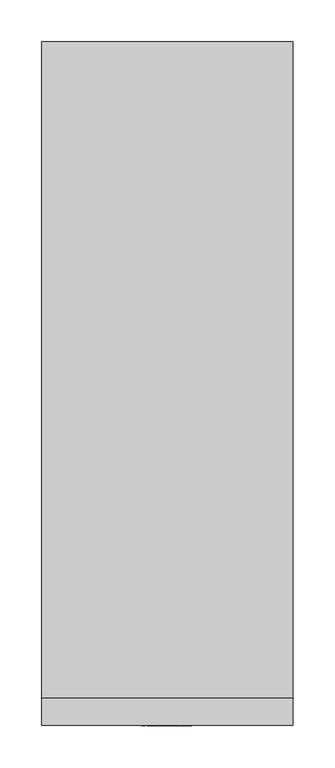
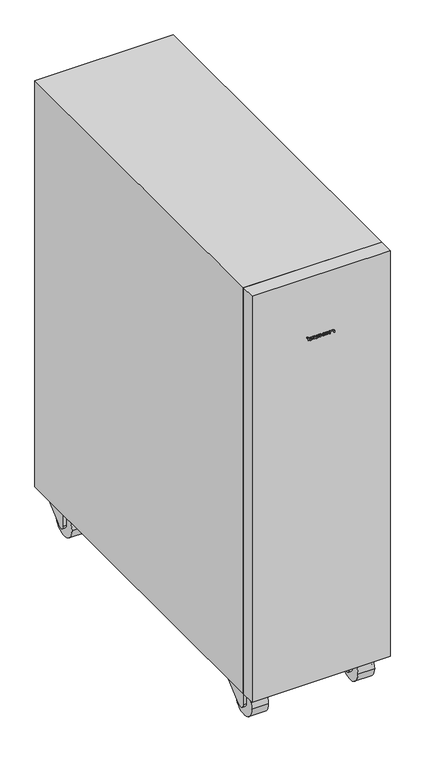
"""IFC4 building model written with IfcOpenShell, lengths in millimetres: proxy geometry, IPPON_ИБП_Innova RT 33 Tower_20000_40000_60000_80000ВА : Innova RT 33 Tower 40000 ВА."""

from ifc_helpers import new_model, si_unit, point, frame, frame_2d, origin, place, context, project, spatial, polyline, circle_curve, trimmed, segment, composite_curve, outline, extrude, source, transform, mapped, element, save
from ifc_brep_helpers import plane_surface, cylinder_surface, advanced_brep


def electrical_equipment_90e6ebf0(model_context):
    return source(origin(), model_context, "Body", "SolidModel", [
        extrude(outline(polyline([(-29.1718133, -1.0), (-31.1718133, -1.0), (-31.1718133, 0.0), (-29.1718133, 0.0), (-29.1718133, -1.0)])), frame((0.0, 0.0, 862.4695835), z_axis=(0.0, 0.0, 1.0), x_axis=(1.0, 0.0, 0.0)), (0.0, 0.0, 1.0), 2.3),
        extrude(outline(polyline([(18.6035474, -1.0), (16.6035474, -1.0), (16.6035474, 0.0), (18.6035474, 0.0), (18.6035474, -1.0)])), frame((0.0, 0.0, 856.4695835), z_axis=(0.0, 0.0, 1.0), x_axis=(1.0, 0.0, 0.0)), (0.0, 0.0, 1.0), 2.2268231),
        extrude(outline(polyline([(-26.438565, -1.0), (-28.4833324, -1.0), (-28.4833324, 0.0), (-26.438565, 0.0), (-26.438565, -1.0)])), frame((0.0, 0.0, 856.4695835), z_axis=(0.0, 0.0, 1.0), x_axis=(1.0, 0.0, 0.0)), (0.0, 0.0, 1.0), 6.0),
        extrude(outline(composite_curve([segment(polyline([(860.2071435, -24.2241109), (860.2071435, -14.9923536)]), True, "CONTINUOUS"), segment(trimmed(circle_curve(frame_2d((859.3506642, -14.9923536)), 0.8564793), [point((860.2071435, -14.9923536))], [point((858.4941849, -14.9923536))], True, "CARTESIAN"), True, "CONTINUOUS"), segment(polyline([(858.4941849, -14.9923536), (858.4941849, -24.2241109), (855.0036803, -24.2241109), (855.0036803, -22.2241109), (856.4695835, -22.2241109), (856.4695835, -15.1486036)]), True, "CONTINUOUS"), segment(trimmed(circle_curve(frame_2d((859.4695835, -15.1486036)), 3.0), [point((856.4695835, -15.1486036))], [point((862.4695835, -15.1486036))], False, "CARTESIAN"), True, "CONTINUOUS"), segment(polyline([(862.4695835, -15.1486036), (862.4695835, -24.2241109), (860.2071435, -24.2241109)]), True, "CONTINUOUS")], self_intersect=False)), frame((0.0, -1.0, 0.0), z_axis=(0.0, 1.0, 0.0), x_axis=(0.0, 0.0, 1.0)), (0.0, 0.0, 1.0), 1.0),
        extrude(outline(composite_curve([segment(polyline([(860.2071435, -11.0171091), (860.2071435, -1.7853518)]), True, "CONTINUOUS"), segment(trimmed(circle_curve(frame_2d((859.3506642, -1.7853518)), 0.8564793), [point((860.2071435, -1.7853518))], [point((858.4941849, -1.7853518))], True, "CARTESIAN"), True, "CONTINUOUS"), segment(polyline([(858.4941849, -1.7853518), (858.4941849, -11.0171091), (855.0036803, -11.0171091), (855.0036803, -9.0171091), (856.4695835, -9.0171091), (856.4695835, -1.9416018)]), True, "CONTINUOUS"), segment(trimmed(circle_curve(frame_2d((859.4695835, -1.9416018)), 3.0), [point((856.4695835, -1.9416018))], [point((862.4695835, -1.9416018))], False, "CARTESIAN"), True, "CONTINUOUS"), segment(polyline([(862.4695835, -1.9416018), (862.4695835, -11.0171091), (860.2071435, -11.0171091)]), True, "CONTINUOUS")], self_intersect=False)), frame((0.0, -1.0, 0.0), z_axis=(0.0, 1.0, 0.0), x_axis=(0.0, 0.0, 1.0)), (0.0, 0.0, 1.0), 1.0),
        extrude(outline(composite_curve([segment(trimmed(circle_curve(frame_2d((859.4695835, 12.558657)), 3.0), [point((856.4695835, 12.558657))], [point((862.4695835, 12.558657))], False, "CARTESIAN"), True, "CONTINUOUS"), segment(polyline([(862.4695835, 12.558657), (862.4695835, 4.958657)]), True, "CONTINUOUS"), segment(trimmed(circle_curve(frame_2d((859.4695835, 4.958657)), 3.0), [point((862.4695835, 4.958657))], [point((856.4695835, 4.958657))], False, "CARTESIAN"), True, "CONTINUOUS"), segment(polyline([(856.4695835, 4.958657), (856.4695835, 12.558657)]), True, "CONTINUOUS")], self_intersect=False), holes=[composite_curve([segment(polyline([(858.4941849, 12.714907), (858.4941849, 4.802407)]), True, "CONTINUOUS"), segment(trimmed(circle_curve(frame_2d((859.3506642, 4.802407)), 0.8564793), [point((858.4941849, 4.802407))], [point((860.2071435, 4.802407))], True, "CARTESIAN"), True, "CONTINUOUS"), segment(polyline([(860.2071435, 4.802407), (860.2071435, 12.714907)]), True, "CONTINUOUS"), segment(trimmed(circle_curve(frame_2d((859.3506642, 12.714907)), 0.8564793), [point((860.2071435, 12.714907))], [point((858.4941849, 12.714907))], True, "CARTESIAN"), True, "CONTINUOUS")], self_intersect=False)]), frame((0.0, -1.0, 0.0), z_axis=(0.0, 1.0, 0.0), x_axis=(0.0, 0.0, 1.0)), (0.0, 0.0, 1.0), 1.0),
        extrude(outline(composite_curve([segment(polyline([(860.2071435, 16.6035474), (860.2071435, 25.8353046)]), True, "CONTINUOUS"), segment(trimmed(circle_curve(frame_2d((859.3506642, 25.8353046)), 0.8564793), [point((860.2071435, 25.8353046))], [point((859.3506642, 26.6917839))], True, "CARTESIAN"), True, "CONTINUOUS"), segment(polyline([(859.3506642, 26.6917839), (856.4695835, 26.6917839), (856.4695835, 28.6317921), (860.0, 28.6317921)]), True, "CONTINUOUS"), segment(trimmed(circle_curve(frame_2d((859.4695835, 25.6790546)), 3.0), [point((860.0, 28.6317921))], [point((862.4695835, 25.6790546))], False, "CARTESIAN"), True, "CONTINUOUS"), segment(polyline([(862.4695835, 25.6790546), (862.4695835, 16.6035474), (860.2071435, 16.6035474)]), True, "CONTINUOUS")], self_intersect=False)), frame((0.0, -1.0, 0.0), z_axis=(0.0, 1.0, 0.0), x_axis=(0.0, 0.0, 1.0)), (0.0, 0.0, 1.0), 1.0),
        advanced_brep(
        [(-133.0, 765.0, 30.0), (-133.0, 705.0, 30.0), (-133.0, 725.0, 58.2842712), (-133.0, 725.0, 30.0), (-133.0, 743.2371094, 24.3299005), (-133.0, 762.8711425, 41.0995231), (-97.0, 705.0, 30.0), (-97.0, 765.0, 30.0), (-97.0, 762.8711425, 41.0995231), (-97.0, 743.2371094, 24.3299005), (-97.0, 725.0, 30.0), (-97.0, 725.0, 58.2842712), (-140.0, 725.0, 30.0), (-140.0, 725.0, 70.0), (-140.0, 785.0, 70.0), (-140.0, 785.0, 60.0), (-140.0, 743.2371094, 24.3299005), (-90.0, 725.0, 30.0), (-90.0, 743.2371094, 24.3299005), (-90.0, 785.0, 60.0), (-90.0, 785.0, 70.0), (-90.0, 725.0, 70.0)],
        [
            (0, 1, circle_curve(frame((-133.0, 735.0, 30.0), z_axis=(-1.0, 0.0, 0.0), x_axis=(0.0, -1.0, 0.0)), 30.0)),
            (1, 2, circle_curve(frame((-133.0, 735.0, 30.0), z_axis=(-1.0, 0.0, 0.0), x_axis=(0.0, -1.0, 0.0)), 30.0)),
            (2, 3),
            (3, 4, circle_curve(frame((-133.0, 735.0, 30.0), z_axis=(1.0, 0.0, 0.0), x_axis=(0.0, -1.0, 0.0)), 10.0)),
            (4, 5),
            (5, 0, circle_curve(frame((-133.0, 735.0, 30.0), z_axis=(-1.0, 0.0, 0.0), x_axis=(0.0, -1.0, 0.0)), 30.0)),
            (6, 7, circle_curve(frame((-97.0, 735.0, 30.0), z_axis=(1.0, 0.0, 0.0), x_axis=(0.0, -1.0, 0.0)), 30.0)),
            (7, 8, circle_curve(frame((-97.0, 735.0, 30.0), z_axis=(1.0, 0.0, 0.0), x_axis=(0.0, -1.0, 0.0)), 30.0)),
            (8, 9),
            (9, 10, circle_curve(frame((-97.0, 735.0, 30.0), z_axis=(-1.0, 0.0, 0.0), x_axis=(0.0, -1.0, 0.0)), 10.0)),
            (10, 11),
            (11, 6, circle_curve(frame((-97.0, 735.0, 30.0), z_axis=(1.0, 0.0, 0.0), x_axis=(0.0, -1.0, 0.0)), 30.0)),
            (0, 7),
            (6, 1),
            (5, 8),
            (11, 2),
            (12, 13),
            (13, 14),
            (14, 15),
            (15, 16),
            (16, 12, circle_curve(frame((-140.0, 735.0, 30.0), z_axis=(-1.0, 0.0, 0.0), x_axis=(0.0, -1.0, 0.0)), 10.0)),
            (17, 18, circle_curve(frame((-90.0, 735.0, 30.0), z_axis=(1.0, 0.0, 0.0), x_axis=(0.0, -1.0, 0.0)), 10.0)),
            (18, 19),
            (19, 20),
            (20, 21),
            (21, 17),
            (12, 3),
            (10, 17),
            (21, 13),
            (20, 14),
            (19, 15),
            (18, 9),
            (4, 16),
        ],
        [
            plane_surface(frame((-133.0, 705.0, 30.0), z_axis=(-1.0, 0.0, 0.0), x_axis=(0.0, 0.0, 1.0))),
            plane_surface(frame((-97.0, 705.0, 30.0), z_axis=(1.0, 0.0, 0.0), x_axis=(0.0, 0.0, -1.0))),
            cylinder_surface(frame((-97.0, 735.0, 30.0), z_axis=(-1.0, 0.0, 0.0), x_axis=(0.0, -1.0, 0.0)), 30.0),
            plane_surface(frame((-140.0, 725.0, 70.0), z_axis=(-1.0, 0.0, 0.0), x_axis=(0.0, 0.0, 1.0))),
            plane_surface(frame((-90.0, 725.0, 70.0), z_axis=(1.0, 0.0, 0.0), x_axis=(0.0, 0.0, -1.0))),
            plane_surface(frame((-140.0, 725.0, 30.0), z_axis=(0.0, -1.0, 0.0), x_axis=(1.0, 0.0, 0.0))),
            plane_surface(frame((-140.0, 725.0, 70.0), z_axis=(0.0, 0.0, 1.0), x_axis=(1.0, 0.0, 0.0))),
            plane_surface(frame((-140.0, 785.0, 70.0), z_axis=(0.0, 1.0, 0.0), x_axis=(1.0, 0.0, 0.0))),
            plane_surface(frame((-140.0, 785.0, 60.0), z_axis=(0.0, 0.6494609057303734, -0.7603949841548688), x_axis=(1.0, 0.0, 0.0))),
            cylinder_surface(frame((-90.0, 735.0, 30.0), z_axis=(-1.0, 0.0, 0.0), x_axis=(0.0, -1.0, 0.0)), 10.0),
        ],
        [
            (0, [[1, 2, 3, 4, 5, 6]]),
            (1, [[7, 8, 9, 10, 11, 12]]),
            (2, [[-1, 13, -7, 14]]),
            (2, [[-13, -6, 15, -8]]),
            (2, [[-14, -12, 16, -2]]),
            (3, [[17, 18, 19, 20, 21]]),
            (4, [[22, 23, 24, 25, 26]]),
            (5, [[-17, 27, -3, -16, -11, 28, -26, 29]]),
            (6, [[-18, -29, -25, 30]]),
            (7, [[-19, -30, -24, 31]]),
            (8, [[-20, -31, -23, 32, -9, -15, -5, 33]]),
            (9, [[-21, -33, -4, -27]]),
            (9, [[-22, -28, -10, -32]]),
        ],
    ),
        advanced_brep(
        [(97.0, 765.0, 30.0), (97.0, 705.0, 30.0), (97.0, 725.0, 58.2842712), (97.0, 725.0, 30.0), (97.0, 743.2371094, 24.3299005), (97.0, 762.8711425, 41.0995231), (133.0, 705.0, 30.0), (133.0, 765.0, 30.0), (133.0, 762.8711425, 41.0995231), (133.0, 743.2371094, 24.3299005), (133.0, 725.0, 30.0), (133.0, 725.0, 58.2842712), (90.0, 725.0, 30.0), (90.0, 725.0, 70.0), (90.0, 785.0, 70.0), (90.0, 785.0, 60.0), (90.0, 743.2371094, 24.3299005), (140.0, 725.0, 30.0), (140.0, 743.2371094, 24.3299005), (140.0, 785.0, 60.0), (140.0, 785.0, 70.0), (140.0, 725.0, 70.0)],
        [
            (0, 1, circle_curve(frame((97.0, 735.0, 30.0), z_axis=(-1.0, 0.0, 0.0), x_axis=(0.0, -1.0, 0.0)), 30.0)),
            (1, 2, circle_curve(frame((97.0, 735.0, 30.0), z_axis=(-1.0, 0.0, 0.0), x_axis=(0.0, -1.0, 0.0)), 30.0)),
            (2, 3),
            (3, 4, circle_curve(frame((97.0, 735.0, 30.0), z_axis=(1.0, 0.0, 0.0), x_axis=(0.0, -1.0, 0.0)), 10.0)),
            (4, 5),
            (5, 0, circle_curve(frame((97.0, 735.0, 30.0), z_axis=(-1.0, 0.0, 0.0), x_axis=(0.0, -1.0, 0.0)), 30.0)),
            (6, 7, circle_curve(frame((133.0, 735.0, 30.0), z_axis=(1.0, 0.0, 0.0), x_axis=(0.0, -1.0, 0.0)), 30.0)),
            (7, 8, circle_curve(frame((133.0, 735.0, 30.0), z_axis=(1.0, 0.0, 0.0), x_axis=(0.0, -1.0, 0.0)), 30.0)),
            (8, 9),
            (9, 10, circle_curve(frame((133.0, 735.0, 30.0), z_axis=(-1.0, 0.0, 0.0), x_axis=(0.0, -1.0, 0.0)), 10.0)),
            (10, 11),
            (11, 6, circle_curve(frame((133.0, 735.0, 30.0), z_axis=(1.0, 0.0, 0.0), x_axis=(0.0, -1.0, 0.0)), 30.0)),
            (0, 7),
            (6, 1),
            (5, 8),
            (11, 2),
            (12, 13),
            (13, 14),
            (14, 15),
            (15, 16),
            (16, 12, circle_curve(frame((90.0, 735.0, 30.0), z_axis=(-1.0, 0.0, 0.0), x_axis=(0.0, -1.0, 0.0)), 10.0)),
            (17, 18, circle_curve(frame((140.0, 735.0, 30.0), z_axis=(1.0, 0.0, 0.0), x_axis=(0.0, -1.0, 0.0)), 10.0)),
            (18, 19),
            (19, 20),
            (20, 21),
            (21, 17),
            (12, 3),
            (10, 17),
            (21, 13),
            (20, 14),
            (19, 15),
            (18, 9),
            (4, 16),
        ],
        [
            plane_surface(frame((97.0, 705.0, 30.0), z_axis=(-1.0, 0.0, 0.0), x_axis=(0.0, 0.0, 1.0))),
            plane_surface(frame((133.0, 705.0, 30.0), z_axis=(1.0, 0.0, 0.0), x_axis=(0.0, 0.0, -1.0))),
            cylinder_surface(frame((133.0, 735.0, 30.0), z_axis=(-1.0, 0.0, 0.0), x_axis=(0.0, -1.0, 0.0)), 30.0),
            plane_surface(frame((90.0, 725.0, 70.0), z_axis=(-1.0, 0.0, 0.0), x_axis=(0.0, 0.0, 1.0))),
            plane_surface(frame((140.0, 725.0, 70.0), z_axis=(1.0, 0.0, 0.0), x_axis=(0.0, 0.0, -1.0))),
            plane_surface(frame((90.0, 725.0, 30.0), z_axis=(0.0, -1.0, 0.0), x_axis=(1.0, 0.0, 0.0))),
            plane_surface(frame((90.0, 725.0, 70.0), z_axis=(0.0, 0.0, 1.0), x_axis=(1.0, 0.0, 0.0))),
            plane_surface(frame((90.0, 785.0, 70.0), z_axis=(0.0, 1.0, 0.0), x_axis=(1.0, 0.0, 0.0))),
            plane_surface(frame((90.0, 785.0, 60.0), z_axis=(0.0, 0.6494609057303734, -0.7603949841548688), x_axis=(1.0, 0.0, 0.0))),
            cylinder_surface(frame((140.0, 735.0, 30.0), z_axis=(-1.0, 0.0, 0.0), x_axis=(0.0, -1.0, 0.0)), 10.0),
        ],
        [
            (0, [[1, 2, 3, 4, 5, 6]]),
            (1, [[7, 8, 9, 10, 11, 12]]),
            (2, [[-1, 13, -7, 14]]),
            (2, [[-13, -6, 15, -8]]),
            (2, [[-14, -12, 16, -2]]),
            (3, [[17, 18, 19, 20, 21]]),
            (4, [[22, 23, 24, 25, 26]]),
            (5, [[-17, 27, -3, -16, -11, 28, -26, 29]]),
            (6, [[-18, -29, -25, 30]]),
            (7, [[-19, -30, -24, 31]]),
            (8, [[-20, -31, -23, 32, -9, -15, -5, 33]]),
            (9, [[-21, -33, -4, -27]]),
            (9, [[-22, -28, -10, -32]]),
        ],
    ),
        advanced_brep(
        [(-133.0, 90.0, 30.0), (-133.0, 30.0, 30.0), (-133.0, 50.0, 58.2842712), (-133.0, 50.0, 30.0), (-133.0, 68.2371094, 24.3299005), (-133.0, 87.8711425, 41.0995231), (-97.0, 30.0, 30.0), (-97.0, 90.0, 30.0), (-97.0, 87.8711425, 41.0995231), (-97.0, 68.2371094, 24.3299005), (-97.0, 50.0, 30.0), (-97.0, 50.0, 58.2842712), (-140.0, 50.0, 30.0), (-140.0, 50.0, 70.0), (-140.0, 110.0, 70.0), (-140.0, 110.0, 60.0), (-140.0, 68.2371094, 24.3299005), (-90.0, 50.0, 30.0), (-90.0, 68.2371094, 24.3299005), (-90.0, 110.0, 60.0), (-90.0, 110.0, 70.0), (-90.0, 50.0, 70.0)],
        [
            (0, 1, circle_curve(frame((-133.0, 60.0, 30.0), z_axis=(-1.0, 0.0, 0.0), x_axis=(0.0, -1.0, 0.0)), 30.0)),
            (1, 2, circle_curve(frame((-133.0, 60.0, 30.0), z_axis=(-1.0, 0.0, 0.0), x_axis=(0.0, -1.0, 0.0)), 30.0)),
            (2, 3),
            (3, 4, circle_curve(frame((-133.0, 60.0, 30.0), z_axis=(1.0, 0.0, 0.0), x_axis=(0.0, -1.0, 0.0)), 10.0)),
            (4, 5),
            (5, 0, circle_curve(frame((-133.0, 60.0, 30.0), z_axis=(-1.0, 0.0, 0.0), x_axis=(0.0, -1.0, 0.0)), 30.0)),
            (6, 7, circle_curve(frame((-97.0, 60.0, 30.0), z_axis=(1.0, 0.0, 0.0), x_axis=(0.0, -1.0, 0.0)), 30.0)),
            (7, 8, circle_curve(frame((-97.0, 60.0, 30.0), z_axis=(1.0, 0.0, 0.0), x_axis=(0.0, -1.0, 0.0)), 30.0)),
            (8, 9),
            (9, 10, circle_curve(frame((-97.0, 60.0, 30.0), z_axis=(-1.0, 0.0, 0.0), x_axis=(0.0, -1.0, 0.0)), 10.0)),
            (10, 11),
            (11, 6, circle_curve(frame((-97.0, 60.0, 30.0), z_axis=(1.0, 0.0, 0.0), x_axis=(0.0, -1.0, 0.0)), 30.0)),
            (0, 7),
            (6, 1),
            (5, 8),
            (11, 2),
            (12, 13),
            (13, 14),
            (14, 15),
            (15, 16),
            (16, 12, circle_curve(frame((-140.0, 60.0, 30.0), z_axis=(-1.0, 0.0, 0.0), x_axis=(0.0, -1.0, 0.0)), 10.0)),
            (17, 18, circle_curve(frame((-90.0, 60.0, 30.0), z_axis=(1.0, 0.0, 0.0), x_axis=(0.0, -1.0, 0.0)), 10.0)),
            (18, 19),
            (19, 20),
            (20, 21),
            (21, 17),
            (12, 3),
            (10, 17),
            (21, 13),
            (20, 14),
            (19, 15),
            (18, 9),
            (4, 16),
        ],
        [
            plane_surface(frame((-133.0, 30.0, 30.0), z_axis=(-1.0, 0.0, 0.0), x_axis=(0.0, 0.0, 1.0))),
            plane_surface(frame((-97.0, 30.0, 30.0), z_axis=(1.0, 0.0, 0.0), x_axis=(0.0, 0.0, -1.0))),
            cylinder_surface(frame((-97.0, 60.0, 30.0), z_axis=(-1.0, 0.0, 0.0), x_axis=(0.0, -1.0, 0.0)), 30.0),
            plane_surface(frame((-140.0, 50.0, 70.0), z_axis=(-1.0, 0.0, 0.0), x_axis=(0.0, 0.0, 1.0))),
            plane_surface(frame((-90.0, 50.0, 70.0), z_axis=(1.0, 0.0, 0.0), x_axis=(0.0, 0.0, -1.0))),
            plane_surface(frame((-140.0, 50.0, 30.0), z_axis=(0.0, -1.0, 0.0), x_axis=(1.0, 0.0, 0.0))),
            plane_surface(frame((-140.0, 50.0, 70.0), z_axis=(0.0, 0.0, 1.0), x_axis=(1.0, 0.0, 0.0))),
            plane_surface(frame((-140.0, 110.0, 70.0), z_axis=(0.0, 1.0, 0.0), x_axis=(1.0, 0.0, 0.0))),
            plane_surface(frame((-140.0, 110.0, 60.0), z_axis=(0.0, 0.6494609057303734, -0.7603949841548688), x_axis=(1.0, 0.0, 0.0))),
            cylinder_surface(frame((-90.0, 60.0, 30.0), z_axis=(-1.0, 0.0, 0.0), x_axis=(0.0, -1.0, 0.0)), 10.0),
        ],
        [
            (0, [[1, 2, 3, 4, 5, 6]]),
            (1, [[7, 8, 9, 10, 11, 12]]),
            (2, [[-1, 13, -7, 14]]),
            (2, [[-13, -6, 15, -8]]),
            (2, [[-14, -12, 16, -2]]),
            (3, [[17, 18, 19, 20, 21]]),
            (4, [[22, 23, 24, 25, 26]]),
            (5, [[-17, 27, -3, -16, -11, 28, -26, 29]]),
            (6, [[-18, -29, -25, 30]]),
            (7, [[-19, -30, -24, 31]]),
            (8, [[-20, -31, -23, 32, -9, -15, -5, 33]]),
            (9, [[-21, -33, -4, -27]]),
            (9, [[-22, -28, -10, -32]]),
        ],
    ),
        advanced_brep(
        [(97.0, 90.0, 30.0), (97.0, 30.0, 30.0), (97.0, 50.0, 58.2842712), (97.0, 50.0, 30.0), (97.0, 68.2371094, 24.3299005), (97.0, 87.8711425, 41.0995231), (133.0, 30.0, 30.0), (133.0, 90.0, 30.0), (133.0, 87.8711425, 41.0995231), (133.0, 68.2371094, 24.3299005), (133.0, 50.0, 30.0), (133.0, 50.0, 58.2842712), (90.0, 50.0, 30.0), (90.0, 50.0, 70.0), (90.0, 110.0, 70.0), (90.0, 110.0, 60.0), (90.0, 68.2371094, 24.3299005), (140.0, 50.0, 30.0), (140.0, 68.2371094, 24.3299005), (140.0, 110.0, 60.0), (140.0, 110.0, 70.0), (140.0, 50.0, 70.0)],
        [
            (0, 1, circle_curve(frame((97.0, 60.0, 30.0), z_axis=(-1.0, 0.0, 0.0), x_axis=(0.0, -1.0, 0.0)), 30.0)),
            (1, 2, circle_curve(frame((97.0, 60.0, 30.0), z_axis=(-1.0, 0.0, 0.0), x_axis=(0.0, -1.0, 0.0)), 30.0)),
            (2, 3),
            (3, 4, circle_curve(frame((97.0, 60.0, 30.0), z_axis=(1.0, 0.0, 0.0), x_axis=(0.0, -1.0, 0.0)), 10.0)),
            (4, 5),
            (5, 0, circle_curve(frame((97.0, 60.0, 30.0), z_axis=(-1.0, 0.0, 0.0), x_axis=(0.0, -1.0, 0.0)), 30.0)),
            (6, 7, circle_curve(frame((133.0, 60.0, 30.0), z_axis=(1.0, 0.0, 0.0), x_axis=(0.0, -1.0, 0.0)), 30.0)),
            (7, 8, circle_curve(frame((133.0, 60.0, 30.0), z_axis=(1.0, 0.0, 0.0), x_axis=(0.0, -1.0, 0.0)), 30.0)),
            (8, 9),
            (9, 10, circle_curve(frame((133.0, 60.0, 30.0), z_axis=(-1.0, 0.0, 0.0), x_axis=(0.0, -1.0, 0.0)), 10.0)),
            (10, 11),
            (11, 6, circle_curve(frame((133.0, 60.0, 30.0), z_axis=(1.0, 0.0, 0.0), x_axis=(0.0, -1.0, 0.0)), 30.0)),
            (0, 7),
            (6, 1),
            (5, 8),
            (11, 2),
            (12, 13),
            (13, 14),
            (14, 15),
            (15, 16),
            (16, 12, circle_curve(frame((90.0, 60.0, 30.0), z_axis=(-1.0, 0.0, 0.0), x_axis=(0.0, -1.0, 0.0)), 10.0)),
            (17, 18, circle_curve(frame((140.0, 60.0, 30.0), z_axis=(1.0, 0.0, 0.0), x_axis=(0.0, -1.0, 0.0)), 10.0)),
            (18, 19),
            (19, 20),
            (20, 21),
            (21, 17),
            (12, 3),
            (10, 17),
            (21, 13),
            (20, 14),
            (19, 15),
            (18, 9),
            (4, 16),
        ],
        [
            plane_surface(frame((97.0, 30.0, 30.0), z_axis=(-1.0, 0.0, 0.0), x_axis=(0.0, 0.0, 1.0))),
            plane_surface(frame((133.0, 30.0, 30.0), z_axis=(1.0, 0.0, 0.0), x_axis=(0.0, 0.0, -1.0))),
            cylinder_surface(frame((133.0, 60.0, 30.0), z_axis=(-1.0, 0.0, 0.0), x_axis=(0.0, -1.0, 0.0)), 30.0),
            plane_surface(frame((90.0, 50.0, 70.0), z_axis=(-1.0, 0.0, 0.0), x_axis=(0.0, 0.0, 1.0))),
            plane_surface(frame((140.0, 50.0, 70.0), z_axis=(1.0, 0.0, 0.0), x_axis=(0.0, 0.0, -1.0))),
            plane_surface(frame((90.0, 50.0, 30.0), z_axis=(0.0, -1.0, 0.0), x_axis=(1.0, 0.0, 0.0))),
            plane_surface(frame((90.0, 50.0, 70.0), z_axis=(0.0, 0.0, 1.0), x_axis=(1.0, 0.0, 0.0))),
            plane_surface(frame((90.0, 110.0, 70.0), z_axis=(0.0, 1.0, 0.0), x_axis=(1.0, 0.0, 0.0))),
            plane_surface(frame((90.0, 110.0, 60.0), z_axis=(0.0, 0.6494609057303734, -0.7603949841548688), x_axis=(1.0, 0.0, 0.0))),
            cylinder_surface(frame((140.0, 60.0, 30.0), z_axis=(-1.0, 0.0, 0.0), x_axis=(0.0, -1.0, 0.0)), 10.0),
        ],
        [
            (0, [[1, 2, 3, 4, 5, 6]]),
            (1, [[7, 8, 9, 10, 11, 12]]),
            (2, [[-1, 13, -7, 14]]),
            (2, [[-13, -6, 15, -8]]),
            (2, [[-14, -12, 16, -2]]),
            (3, [[17, 18, 19, 20, 21]]),
            (4, [[22, 23, 24, 25, 26]]),
            (5, [[-17, 27, -3, -16, -11, 28, -26, 29]]),
            (6, [[-18, -29, -25, 30]]),
            (7, [[-19, -30, -24, 31]]),
            (8, [[-20, -31, -23, 32, -9, -15, -5, 33]]),
            (9, [[-21, -33, -4, -27]]),
            (9, [[-22, -28, -10, -32]]),
        ],
    ),
        extrude(outline(polyline([(150.0, 0.0), (-150.0, 0.0), (-150.0, 32.0), (150.0, 32.0), (150.0, 0.0)])), frame((0.0, 0.0, 70.0), z_axis=(0.0, 0.0, 1.0), x_axis=(1.0, 0.0, 0.0)), (0.0, 0.0, 1.0), 930.0),
        extrude(outline(polyline([(150.0, 32.0), (-150.0, 32.0), (-150.0, 815.0), (150.0, 815.0), (150.0, 32.0)])), frame((0.0, 0.0, 70.0), z_axis=(0.0, 0.0, 1.0), x_axis=(1.0, 0.0, 0.0)), (0.0, 0.0, 1.0), 930.0),
    ])


if __name__ == "__main__":
    model = new_model("IFC4")
    model_context = context("Model", 3, world=origin())
    ifc_project = project(units=[si_unit("LENGTHUNIT", "METRE", prefix="MILLI")], contexts=[model_context])
    site = spatial("IfcSite", under=ifc_project)
    building = spatial("IfcBuilding", under=site)
    placement = place(None, origin())
    electrical_equipment_shape = electrical_equipment_90e6ebf0(model_context)
    element("IfcBuildingElementProxy", 1, Name="IPPON_ИБП_Innova RT 33 Tower_20000_40000_60000_80000ВА : Innova RT 33 Tower 40000 ВА", ObjectType="IPPON_ИБП_Innova RT 33 Tower_20000_40000_60000_80000ВА : Innova RT 33 Tower 40000 ВА", at=placement, inside=building, context=model_context, shape_type="MappedRepresentation", body=[
        mapped(electrical_equipment_shape, transform((0.0, 0.0, 0.0), x_axis=(1.0, 0.0, 0.0), y_axis=(0.0, 1.0, 0.0), z_axis=(0.0, 0.0, 1.0))),
    ])
    save(model, "model.ifc")
